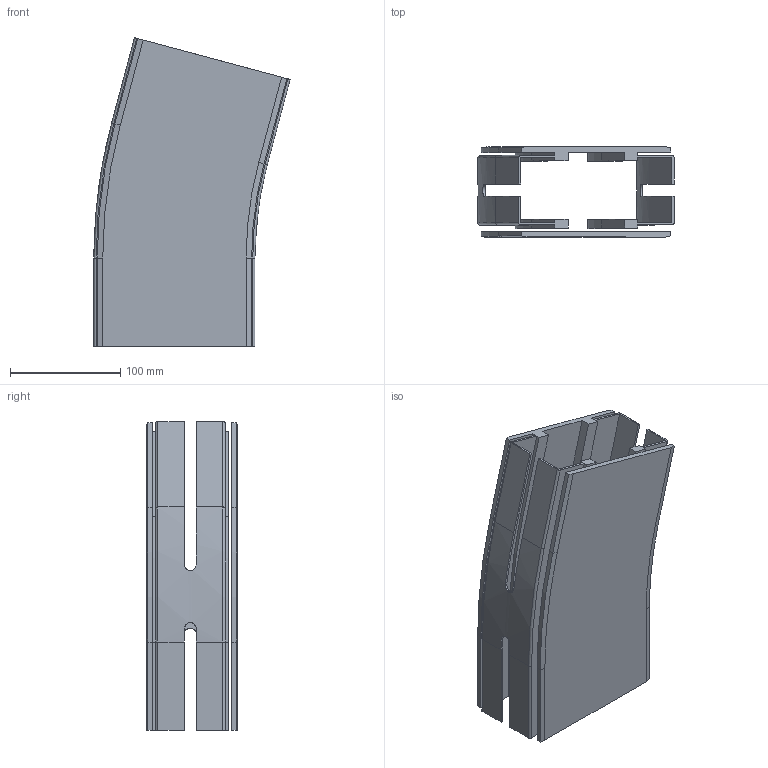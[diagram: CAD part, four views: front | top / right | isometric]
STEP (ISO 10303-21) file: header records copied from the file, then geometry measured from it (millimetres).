
FILE_DESCRIPTION(/* description */ ('GLIDKURVA SERIE 540'),/* implementation_level */ '2;1');
FILE_NAME(/* name */ '540-5375+140-2000-01.stp',/* time_stamp */ '2022-09-21T08:35:17+02:00',/* author */ ('Mathias.Dore'),/* organization */ ('CARRYLINE'),/* preprocessor_version */ 'ST-DEVELOPER v19.2',/* originating_system */ 'Autodesk Inventor 2023',/* authorisation */ '');
FILE_SCHEMA (('AUTOMOTIVE_DESIGN { 1 0 10303 214 3 1 1 }'));
Length unit declared in the file: millimetre
Products named in the file (1): 540-5375+140-2000-01
Bounding box: 177.85 x 82 x 279.7 mm (x, y, z)
Volume: 597630.4 mm3; surface area: 310786.6 mm2
Topology: 2 solids, 2 shells, 167 faces, 458 edges, 300 vertices
Faces by surface type: plane 113, cylinder 28, bspline 18, cone 4, torus 4
Entity records: 5649 total; most frequent: CARTESIAN_POINT 1356, ORIENTED_EDGE 916, DIRECTION 802, EDGE_CURVE 458, LINE 342, VECTOR 342, VERTEX_POINT 300, AXIS2_PLACEMENT_3D 230
